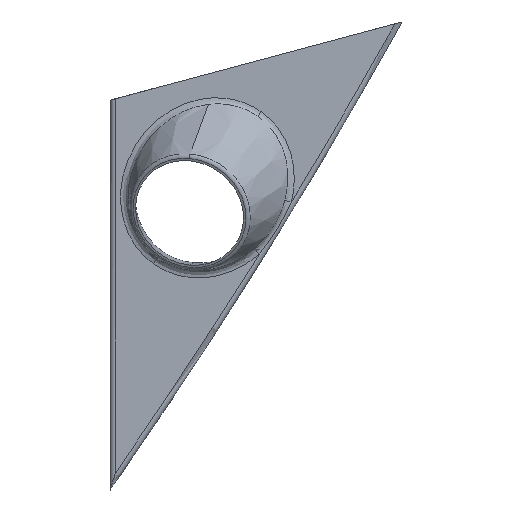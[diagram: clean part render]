
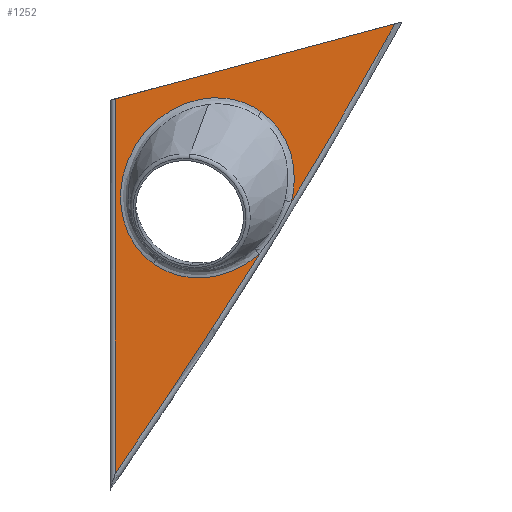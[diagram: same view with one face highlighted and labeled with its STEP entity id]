
A CAD part, front view. The second image highlights one B-rep face of the part: STEP entity #1252.
In plain terms, the highlighted planar face has unit normal (0, -1, 0).
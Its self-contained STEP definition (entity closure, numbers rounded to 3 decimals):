
#10 = CARTESIAN_POINT ( 'NONE',  ( 0., 0., 0. ) ) ;
#34 = EDGE_CURVE ( 'NONE', #1784, #606, #930, .T. ) ;
#43 = CARTESIAN_POINT ( 'NONE',  ( 67.67, 0., -11.9 ) ) ;
#64 = DIRECTION ( 'NONE',  ( 0., 0., -1. ) ) ;
#82 = ORIENTED_EDGE ( 'NONE', *, *, #575, .T. ) ;
#181 = DIRECTION ( 'NONE',  ( 0., 0., 1. ) ) ;
#184 = VERTEX_POINT ( 'NONE', #505 ) ;
#187 = CARTESIAN_POINT ( 'NONE',  ( 57.103, 0., -4.386 ) ) ;
#211 = CARTESIAN_POINT ( 'NONE',  ( 2., 0., 998.433 ) ) ;
#247 = CARTESIAN_POINT ( 'NONE',  ( 43.954, 0., -68.889 ) ) ;
#263 =( BOUNDED_CURVE ( )  B_SPLINE_CURVE ( 3, ( #187, #43, #1095, #959 ),
 .UNSPECIFIED., .F., .T. ) 
 B_SPLINE_CURVE_WITH_KNOTS ( ( 4, 4 ),
 ( 0., 1.164 ),
 .UNSPECIFIED. ) 
 CURVE ( )  GEOMETRIC_REPRESENTATION_ITEM ( )  RATIONAL_B_SPLINE_CURVE ( ( 1., 0.89, 0.89, 1. ) ) 
 REPRESENTATION_ITEM ( '' )  );
#309 =( BOUNDED_CURVE ( )  B_SPLINE_CURVE ( 3, ( #1562, #247, #1144, #1310 ),
 .UNSPECIFIED., .F., .F. ) 
 B_SPLINE_CURVE_WITH_KNOTS ( ( 4, 4 ),
 ( 1.829, 3.142 ),
 .UNSPECIFIED. ) 
 CURVE ( )  GEOMETRIC_REPRESENTATION_ITEM ( )  RATIONAL_B_SPLINE_CURVE ( ( 1., 0.861, 0.861, 1. ) ) 
 REPRESENTATION_ITEM ( '' )  );
#338 = ORIENTED_EDGE ( 'NONE', *, *, #34, .F. ) ;
#357 = CIRCLE ( 'NONE', #1697, 1998. ) ;
#360 = ORIENTED_EDGE ( 'NONE', *, *, #879, .T. ) ;
#433 = EDGE_CURVE ( 'NONE', #516, #767, #263, .T. ) ;
#449 = AXIS2_PLACEMENT_3D ( 'NONE', #1665, #1070, #181 ) ;
#505 = CARTESIAN_POINT ( 'NONE',  ( 2., 0., -140.627 ) ) ;
#516 = VERTEX_POINT ( 'NONE', #841 ) ;
#529 = CARTESIAN_POINT ( 'NONE',  ( 57.103, 0., -4.386 ) ) ;
#551 = EDGE_CURVE ( 'NONE', #1218, #516, #1379, .T. ) ;
#575 = EDGE_CURVE ( 'NONE', #767, #606, #946, .T. ) ;
#606 = VERTEX_POINT ( 'NONE', #1148 ) ;
#636 = CARTESIAN_POINT ( 'NONE',  ( 16.352, 0., -61.693 ) ) ;
#688 = CARTESIAN_POINT ( 'NONE',  ( 5.75, 0., 32.131 ) ) ;
#700 = ORIENTED_EDGE ( 'NONE', *, *, #1396, .T. ) ;
#759 = DIRECTION ( 'NONE',  ( 0.966, 0., 0.259 ) ) ;
#760 = ORIENTED_EDGE ( 'NONE', *, *, #433, .T. ) ;
#766 = CARTESIAN_POINT ( 'NONE',  ( 2., 0., 0.536 ) ) ;
#767 = VERTEX_POINT ( 'NONE', #1630 ) ;
#821 = DIRECTION ( 'NONE',  ( 0., -1., 0. ) ) ;
#841 = CARTESIAN_POINT ( 'NONE',  ( 57.103, 0., -4.386 ) ) ;
#879 = EDGE_CURVE ( 'NONE', #1784, #184, #1420, .T. ) ;
#930 = LINE ( 'NONE', #10, #1488 ) ;
#946 = CIRCLE ( 'NONE', #1685, 1998. ) ;
#959 = CARTESIAN_POINT ( 'NONE',  ( 68.372, 0., -38.462 ) ) ;
#975 = CARTESIAN_POINT ( 'NONE',  ( -35.001, 0., -25.176 ) ) ;
#997 = CARTESIAN_POINT ( 'NONE',  ( 56.352, 0., -58.007 ) ) ;
#1070 = DIRECTION ( 'NONE',  ( 0., 1., 0. ) ) ;
#1085 = EDGE_LOOP ( 'NONE', ( #700, #1779, #1387, #760, #82, #338, #360 ) ) ;
#1095 = CARTESIAN_POINT ( 'NONE',  ( 71.889, 0., -24.659 ) ) ;
#1144 = CARTESIAN_POINT ( 'NONE',  ( 28.477, 0., -70.315 ) ) ;
#1148 = CARTESIAN_POINT ( 'NONE',  ( 107.43, 0., 28.786 ) ) ;
#1218 = VERTEX_POINT ( 'NONE', #636 ) ;
#1243 = CARTESIAN_POINT ( 'NONE',  ( -1639.507, 0., 998.433 ) ) ;
#1252 = ADVANCED_FACE ( 'NONE', ( #1654 ), #1657, .F. ) ;
#1310 = CARTESIAN_POINT ( 'NONE',  ( 16.352, 0., -61.693 ) ) ;
#1318 = VECTOR ( 'NONE', #64, 1000. ) ;
#1379 =( BOUNDED_CURVE ( )  B_SPLINE_CURVE ( 3, ( #1706, #975, #688, #529 ),
 .UNSPECIFIED., .F., .T. ) 
 B_SPLINE_CURVE_WITH_KNOTS ( ( 4, 4 ),
 ( 3.142, 6.283 ),
 .UNSPECIFIED. ) 
 CURVE ( )  GEOMETRIC_REPRESENTATION_ITEM ( )  RATIONAL_B_SPLINE_CURVE ( ( 1., 0.333, 0.333, 1. ) ) 
 REPRESENTATION_ITEM ( '' )  );
#1387 = ORIENTED_EDGE ( 'NONE', *, *, #551, .T. ) ;
#1396 = EDGE_CURVE ( 'NONE', #184, #1554, #357, .T. ) ;
#1419 = DIRECTION ( 'NONE',  ( 0., 0., 1. ) ) ;
#1420 = LINE ( 'NONE', #211, #1318 ) ;
#1426 = DIRECTION ( 'NONE',  ( 0., -1., 0. ) ) ;
#1488 = VECTOR ( 'NONE', #759, 1000. ) ;
#1537 = DIRECTION ( 'NONE',  ( 0., 0., 1. ) ) ;
#1554 = VERTEX_POINT ( 'NONE', #997 ) ;
#1562 = CARTESIAN_POINT ( 'NONE',  ( 56.352, 0., -58.007 ) ) ;
#1630 = CARTESIAN_POINT ( 'NONE',  ( 68.372, 0., -38.462 ) ) ;
#1632 = EDGE_CURVE ( 'NONE', #1554, #1218, #309, .T. ) ;
#1654 = FACE_OUTER_BOUND ( 'NONE', #1085, .T. ) ;
#1657 = PLANE ( 'NONE',  #449 ) ;
#1665 = CARTESIAN_POINT ( 'NONE',  ( -1639.507, 0., 998.433 ) ) ;
#1685 = AXIS2_PLACEMENT_3D ( 'NONE', #1850, #1426, #1419 ) ;
#1697 = AXIS2_PLACEMENT_3D ( 'NONE', #1243, #821, #1537 ) ;
#1706 = CARTESIAN_POINT ( 'NONE',  ( 16.352, 0., -61.693 ) ) ;
#1779 = ORIENTED_EDGE ( 'NONE', *, *, #1632, .T. ) ;
#1784 = VERTEX_POINT ( 'NONE', #766 ) ;
#1850 = CARTESIAN_POINT ( 'NONE',  ( -1639.507, 0., 998.433 ) ) ;
